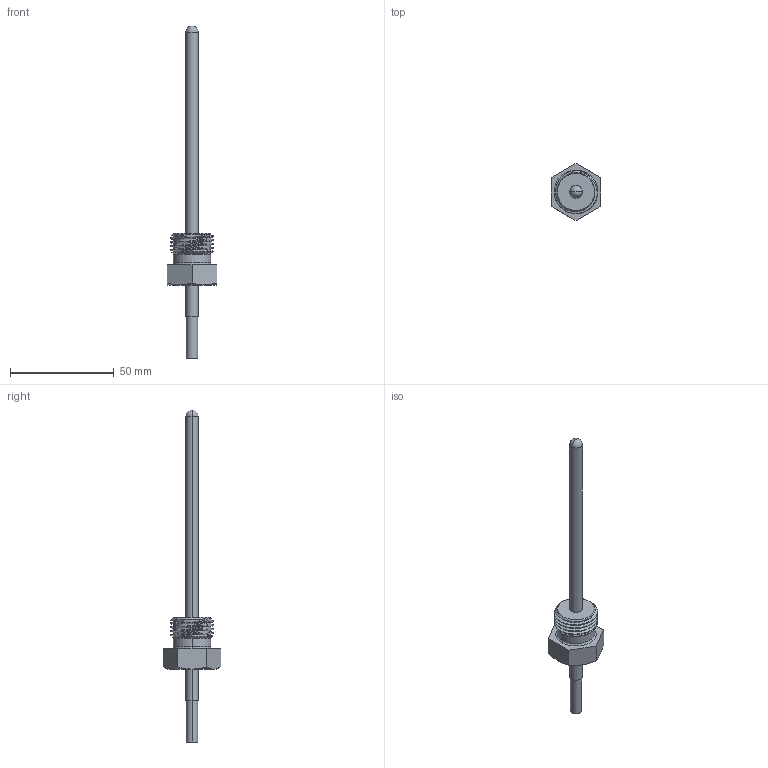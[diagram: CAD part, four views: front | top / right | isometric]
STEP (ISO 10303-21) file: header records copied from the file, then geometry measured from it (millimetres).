
FILE_DESCRIPTION (( 'STEP AP203' ), '1' );
FILE_NAME ('ESTF-PT1000-100-PVC-2.STEP', '2019-10-08T11:51:00', ( '' ), ( '' ), 'SwSTEP 2.0', 'SolidWorks 2016', '' );
FILE_SCHEMA (( 'CONFIG_CONTROL_DESIGN' ));
Length unit declared in the file: millimetre
Products named in the file (1): ESTF-PT1000-100-PVC-2
Bounding box: 24 x 27.71 x 160 mm (x, y, z)
Volume: 12792.8 mm3; surface area: 5778.8 mm2
Topology: 1 solids, 1 shells, 43 faces, 109 edges, 70 vertices
Faces by surface type: cylinder 17, plane 11, cone 8, bspline 3, sphere 2, torus 2
Entity records: 3237 total; most frequent: CARTESIAN_POINT 2228, ORIENTED_EDGE 210, DIRECTION 176, EDGE_CURVE 105, AXIS2_PLACEMENT_3D 70, VERTEX_POINT 68, EDGE_LOOP 47, FACE_OUTER_BOUND 43
